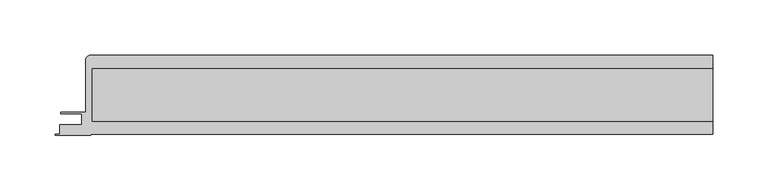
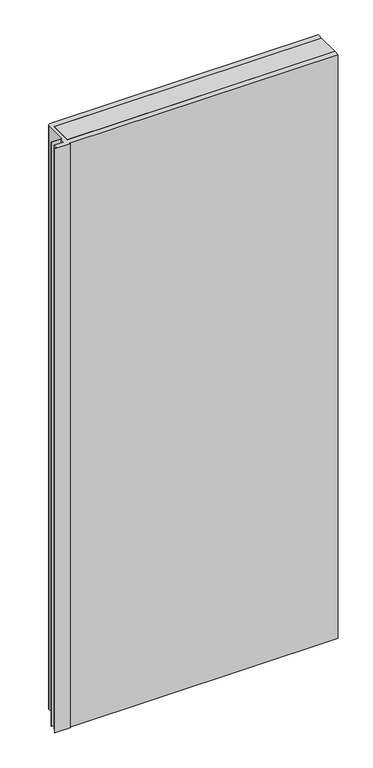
"""IFC4 building model written with IfcOpenShell, lengths in millimetres: plate geometry, Walls_External-Walls_Danpal_Danpatherm-K7-with-AIRPT-Frame : Walls_External-Walls_Danpal_Danpatherm-K7-with-AIRPT-Frame."""

from ifc_helpers import new_model, si_unit, point, frame, frame_2d, origin, place, context, project, spatial, polyline, circle_curve, trimmed, segment, composite_curve, outline, extrude, source, transform, mapped, element, save


def plate_675aabbb(model_context):
    return source(origin(), model_context, "Body", "SweptSolid", [
        extrude(outline(polyline([(-277.7129481, 60.3432727), (283.309327, 60.3432727), (283.309327, 12.7999917), (-277.7129481, 12.7999917), (-277.7129481, 60.3432727)])), frame((0.0, 0.0, -22.0), z_axis=(0.0, 0.0, 1.0), x_axis=(1.0, 0.0, 0.0)), (0.0, 0.0, 1.0), 1294.159327),
        extrude(outline(composite_curve([segment(polyline([(-279.4664181, 72.343285), (283.309327, 72.343285), (283.309327, 60.3432727), (-277.7129481, 60.3432727), (-277.7129481, 12.7999917), (283.309327, 12.7999917), (283.309327, 0.8), (-279.0523184, 0.8), (-279.0523184, 0.0), (-310.9523184, 0.0), (-310.9523184, 0.8), (-306.7523184, 0.8), (-306.7523184, 9.7656785), (-286.9225586, 9.7656785), (-286.9225586, 19.6715177), (-305.8787043, 19.6715177), (-305.8787043, 20.9715623), (-283.309327, 20.9715623), (-283.309327, 68.5003761)]), True, "CONTINUOUS"), segment(trimmed(circle_curve(frame_2d((-279.4664181, 68.5003761)), 3.8429089), [point((-283.309327, 68.5003761))], [point((-279.4664181, 72.343285))], False, "CARTESIAN"), True, "CONTINUOUS")], self_intersect=False)), frame((0.0, 0.0, -22.0), z_axis=(0.0, 0.0, 1.0), x_axis=(1.0, 0.0, 0.0)), (0.0, 0.0, 1.0), 1294.159327),
    ])


if __name__ == "__main__":
    model = new_model("IFC4")
    model_context = context("Model", 3, world=origin())
    ifc_project = project(units=[si_unit("LENGTHUNIT", "METRE", prefix="MILLI")], contexts=[model_context])
    site = spatial("IfcSite", under=ifc_project)
    building = spatial("IfcBuilding", under=site)
    placement = place(None, origin())
    plate_shape = plate_675aabbb(model_context)
    element("IfcPlate", 1, ObjectType="Walls_External-Walls_Danpal_Danpatherm-K7-with-AIRPT-Frame : Walls_External-Walls_Danpal_Danpatherm-K7-with-AIRPT-Frame", at=placement, inside=building, context=model_context, shape_type="MappedRepresentation", body=[
        mapped(plate_shape, transform((0.0, 0.0, 0.0), x_axis=(1.0, 0.0, 0.0), y_axis=(0.0, 1.0, 0.0), z_axis=(0.0, 0.0, 1.0))),
    ])
    save(model, "model.ifc")
